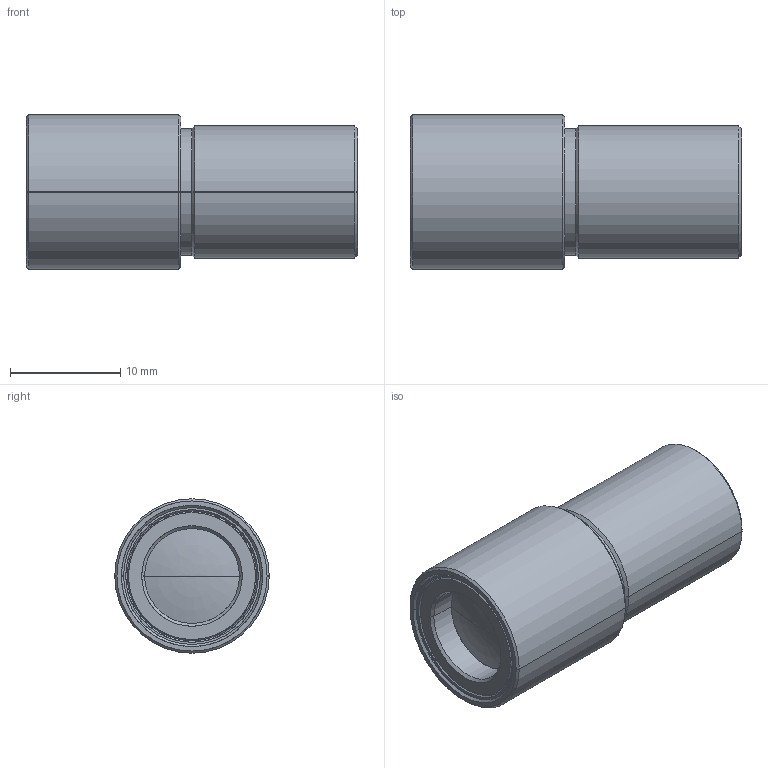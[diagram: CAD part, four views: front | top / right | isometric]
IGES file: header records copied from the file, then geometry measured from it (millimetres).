
Start section: SolidWorks IGES file using analytic representation for surfaces
Bounding box: 30 x 14 x 14 mm (x, y, z)
Surface area: 1624.2 mm2 (no closed solid volume)
Topology: 0 solids, 0 shells, 47 faces, 608 edges, 607 vertices
Faces by surface type: revolution 40, bspline 7
